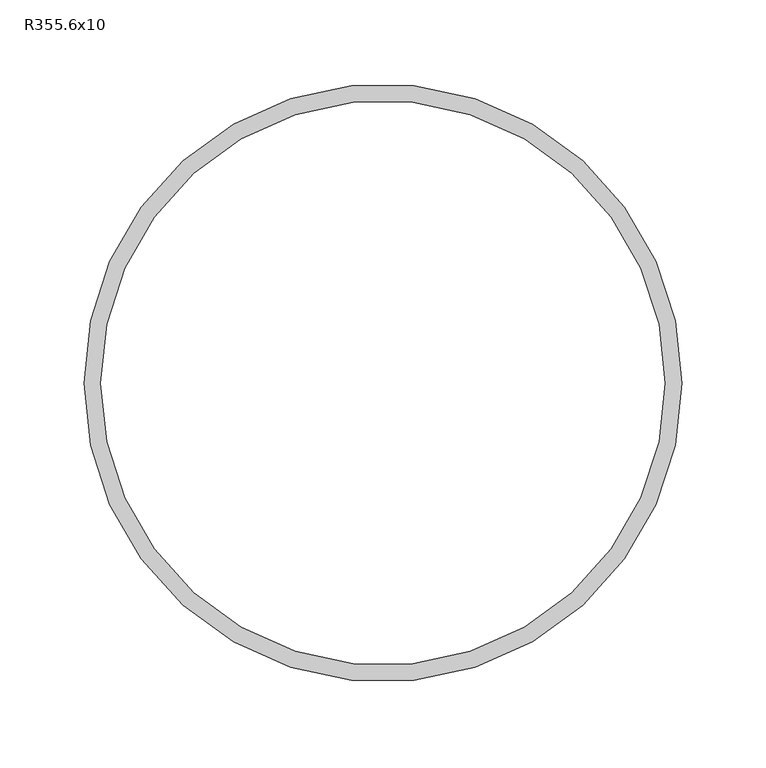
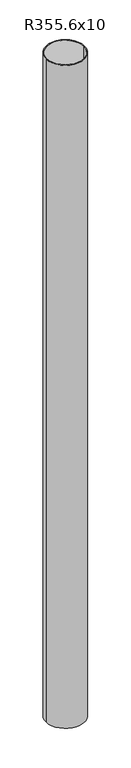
"""IFC4 building model written with IfcOpenShell, lengths in millimetres: column geometry, RPLN RO - Rury okragle_Column : R355.6x10."""

from ifc_helpers import new_model, si_unit, point, origin, origin_with_axes, origin_2d, place, context, project, spatial, circle_curve, trimmed, segment, composite_curve, outline, extrude, source, transform, mapped, element, save


def r355_6x10_451059c9(model_context):
    return source(origin(), model_context, "Body", "SweptSolid", [
        extrude(outline(composite_curve([segment(trimmed(circle_curve(origin_2d(), 177.8), [point((-177.8, 0.0))], [point((177.8, 0.0))], False, "CARTESIAN"), True, "CONTINUOUS"), segment(trimmed(circle_curve(origin_2d(), 177.8), [point((177.8, 0.0))], [point((-177.8, 0.0))], False, "CARTESIAN"), True, "CONTINUOUS")], self_intersect=False), holes=[composite_curve([segment(trimmed(circle_curve(origin_2d(), 167.8), [point((-167.8, 0.0))], [point((167.8, 0.0))], True, "CARTESIAN"), True, "CONTINUOUS"), segment(trimmed(circle_curve(origin_2d(), 167.8), [point((167.8, 0.0))], [point((-167.8, 0.0))], True, "CARTESIAN"), True, "CONTINUOUS")], self_intersect=False)]), origin_with_axes(), (0.0, 0.0, 1.0), 6424.0),
    ])


if __name__ == "__main__":
    model = new_model("IFC4")
    model_context = context("Model", 3, world=origin())
    ifc_project = project(units=[si_unit("LENGTHUNIT", "METRE", prefix="MILLI")], contexts=[model_context])
    site = spatial("IfcSite", under=ifc_project)
    building = spatial("IfcBuilding", under=site)
    placement = place(None, origin())
    r355_6x10_shape = r355_6x10_451059c9(model_context)
    element("IfcColumn", 1, ObjectType="RPLN RO - Rury okragle_Column : R355.6x10", at=placement, inside=building, context=model_context, shape_type="MappedRepresentation", body=[
        mapped(r355_6x10_shape, transform((0.0, 0.0, 0.0), x_axis=(1.0, 0.0, 0.0), y_axis=(0.0, 1.0, 0.0), z_axis=(0.0, 0.0, 1.0))),
    ])
    save(model, "model.ifc")
